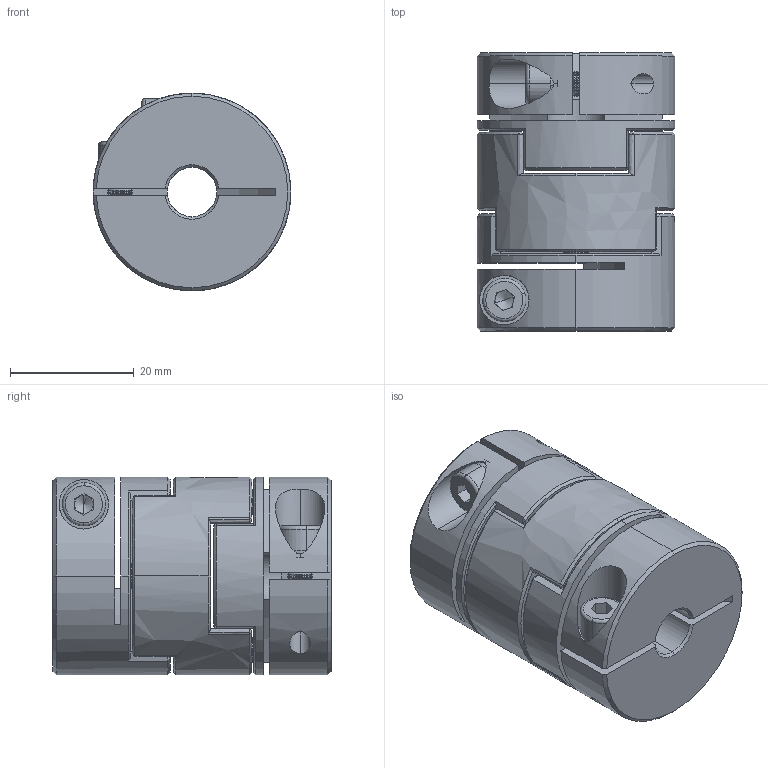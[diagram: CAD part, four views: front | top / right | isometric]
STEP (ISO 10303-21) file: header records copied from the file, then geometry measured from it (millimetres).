
FILE_DESCRIPTION (( 'STEP AP203' ), '1' );
FILE_NAME ('LZ-B-D32L45-8-10.STEP', '2021-10-29T06:38:30', ( '' ), ( '' ), 'SwSTEP 2.0', 'SolidWorks 2018', '' );
FILE_SCHEMA (( 'CONFIG_CONTROL_DESIGN' ));
Length unit declared in the file: millimetre
Products named in the file (1): LZ-B-D32L45-8-10
Bounding box: 32 x 45 x 32 mm (x, y, z)
Volume: 29846.8 mm3; surface area: 13212.4 mm2
Topology: 1 solids, 1 shells, 356 faces, 856 edges, 498 vertices
Faces by surface type: cone 118, cylinder 92, plane 84, bspline 54, torus 8
Entity records: 11145 total; most frequent: CARTESIAN_POINT 3197, ORIENTED_EDGE 1704, DIRECTION 1578, EDGE_CURVE 852, AXIS2_PLACEMENT_3D 619, VERTEX_POINT 498, EDGE_LOOP 382, ADVANCED_FACE 356
